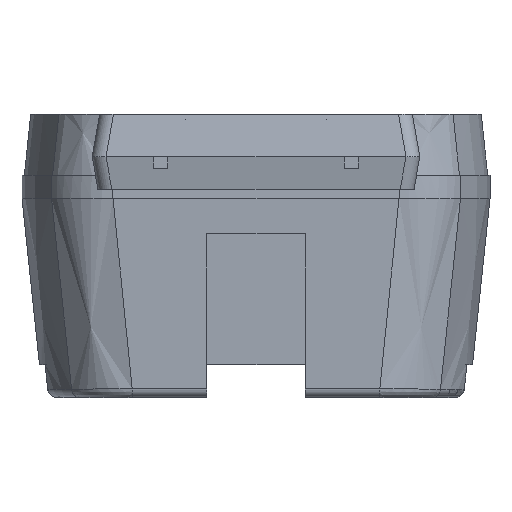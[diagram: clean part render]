
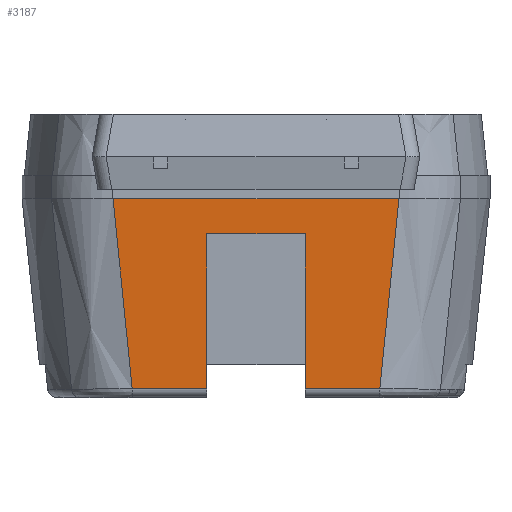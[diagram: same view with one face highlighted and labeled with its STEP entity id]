
A CAD part, front view. The second image highlights one B-rep face of the part: STEP entity #3187.
In plain terms, the highlighted planar face has unit normal (0, -0.999, -0.035).
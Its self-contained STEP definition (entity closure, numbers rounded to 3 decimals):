
#130 = VECTOR ( 'NONE', #842, 1000. ) ;
#179 = ORIENTED_EDGE ( 'NONE', *, *, #1987, .T. ) ;
#298 = EDGE_CURVE ( 'NONE', #2573, #4794, #7145, .T. ) ;
#450 = CARTESIAN_POINT ( 'NONE',  ( 12.279, 25.539, 22.87 ) ) ;
#796 = LINE ( 'NONE', #1024, #4997 ) ;
#829 = DIRECTION ( 'NONE',  ( 0., -0.999, -0.035 ) ) ;
#842 = DIRECTION ( 'NONE',  ( 1., 0., 0. ) ) ;
#884 = EDGE_CURVE ( 'NONE', #2573, #4107, #6139, .T. ) ;
#1024 = CARTESIAN_POINT ( 'NONE',  ( 16.013, 25.411, 26.553 ) ) ;
#1050 = ORIENTED_EDGE ( 'NONE', *, *, #6399, .F. ) ;
#1059 = ORIENTED_EDGE ( 'NONE', *, *, #3048, .T. ) ;
#1079 = LINE ( 'NONE', #7458, #1963 ) ;
#1089 = CARTESIAN_POINT ( 'NONE',  ( 12.298, 25.546, 22.683 ) ) ;
#1186 = CARTESIAN_POINT ( 'NONE',  ( 13.913, 25.411, 26.553 ) ) ;
#1539 = CARTESIAN_POINT ( 'NONE',  ( 17.801, 25.486, 24.401 ) ) ;
#1665 = CARTESIAN_POINT ( 'NONE',  ( 12.261, 25.533, 23.057 ) ) ;
#1867 = VERTEX_POINT ( 'NONE', #5412 ) ;
#1963 = VECTOR ( 'NONE', #6758, 1000. ) ;
#1987 = EDGE_CURVE ( 'NONE', #4107, #4542, #7743, .T. ) ;
#2170 = CARTESIAN_POINT ( 'NONE',  ( 17.938, 25.438, 25.753 ) ) ;
#2198 = EDGE_CURVE ( 'NONE', #2305, #6308, #796, .T. ) ;
#2277 = ORIENTED_EDGE ( 'NONE', *, *, #884, .T. ) ;
#2305 = VERTEX_POINT ( 'NONE', #5625 ) ;
#2495 = DIRECTION ( 'NONE',  ( -1., 0., 0. ) ) ;
#2573 = VERTEX_POINT ( 'NONE', #5283 ) ;
#2607 = ORIENTED_EDGE ( 'NONE', *, *, #298, .F. ) ;
#2684 = PLANE ( 'NONE',  #5648 ) ;
#2711 = CARTESIAN_POINT ( 'NONE',  ( 18.805, 25.411, 26.553 ) ) ;
#2874 = VECTOR ( 'NONE', #2495, 1000. ) ;
#2884 = CARTESIAN_POINT ( 'NONE',  ( 18.019, 25.411, 26.553 ) ) ;
#3048 = EDGE_CURVE ( 'NONE', #2305, #1867, #1079, .T. ) ;
#3187 = ADVANCED_FACE ( 'NONE', ( #6916 ), #2684, .T. ) ;
#3354 = LINE ( 'NONE', #4345, #2874 ) ;
#3355 = EDGE_CURVE ( 'NONE', #1867, #4794, #6334, .T. ) ;
#3643 = EDGE_CURVE ( 'NONE', #5541, #4542, #7503, .T. ) ;
#3817 = ORIENTED_EDGE ( 'NONE', *, *, #2198, .F. ) ;
#3990 = CARTESIAN_POINT ( 'NONE',  ( 13.913, 25.552, 22.496 ) ) ;
#4072 = CARTESIAN_POINT ( 'NONE',  ( 17.705, 25.519, 23.448 ) ) ;
#4102 = CARTESIAN_POINT ( 'NONE',  ( 17.608, 25.552, 22.496 ) ) ;
#4107 = VERTEX_POINT ( 'NONE', #7555 ) ;
#4308 = DIRECTION ( 'NONE',  ( 0., 0.035, -0.999 ) ) ;
#4345 = CARTESIAN_POINT ( 'NONE',  ( 13.913, 25.437, 25.801 ) ) ;
#4542 = VERTEX_POINT ( 'NONE', #5100 ) ;
#4794 = VERTEX_POINT ( 'NONE', #2884 ) ;
#4924 = CARTESIAN_POINT ( 'NONE',  ( 13.913, 25.437, 25.801 ) ) ;
#4997 = VECTOR ( 'NONE', #7261, 1000. ) ;
#5100 = CARTESIAN_POINT ( 'NONE',  ( 13.913, 25.552, 22.496 ) ) ;
#5283 = CARTESIAN_POINT ( 'NONE',  ( 11.907, 25.411, 26.553 ) ) ;
#5318 = ORIENTED_EDGE ( 'NONE', *, *, #3643, .F. ) ;
#5404 = CARTESIAN_POINT ( 'NONE',  ( 12.142, 25.492, 24.222 ) ) ;
#5412 = CARTESIAN_POINT ( 'NONE',  ( 17.608, 25.552, 22.496 ) ) ;
#5466 = CARTESIAN_POINT ( 'NONE',  ( 12.317, 25.552, 22.496 ) ) ;
#5541 = VERTEX_POINT ( 'NONE', #4924 ) ;
#5625 = CARTESIAN_POINT ( 'NONE',  ( 16.013, 25.552, 22.496 ) ) ;
#5648 = AXIS2_PLACEMENT_3D ( 'NONE', #2711, #829, #7724 ) ;
#5872 = VECTOR ( 'NONE', #4308, 1000. ) ;
#5918 = CARTESIAN_POINT ( 'NONE',  ( 17.897, 25.452, 25.353 ) ) ;
#6139 = B_SPLINE_CURVE_WITH_KNOTS ( 'NONE', 3,
 ( #7887, #7952, #5404, #1665, #450, #1089, #5466 ),
 .UNSPECIFIED., .F., .F.,
 ( 4, 3, 4 ),
 ( 0., 0.004, 0.004 ),
 .UNSPECIFIED. ) ;
#6246 = EDGE_LOOP ( 'NONE', ( #1050, #3817, #1059, #6902, #2607, #2277, #179, #5318 ) ) ;
#6308 = VERTEX_POINT ( 'NONE', #6660 ) ;
#6334 = B_SPLINE_CURVE_WITH_KNOTS ( 'NONE', 3,
 ( #4102, #4072, #1539, #5918, #2170, #6524, #7148 ),
 .UNSPECIFIED., .F., .F.,
 ( 4, 3, 4 ),
 ( 0., 0.003, 0.004 ),
 .UNSPECIFIED. ) ;
#6399 = EDGE_CURVE ( 'NONE', #6308, #5541, #3354, .T. ) ;
#6427 = CARTESIAN_POINT ( 'NONE',  ( 18.805, 25.411, 26.553 ) ) ;
#6524 = CARTESIAN_POINT ( 'NONE',  ( 17.978, 25.425, 26.153 ) ) ;
#6660 = CARTESIAN_POINT ( 'NONE',  ( 16.013, 25.437, 25.801 ) ) ;
#6758 = DIRECTION ( 'NONE',  ( 1., 0., 0. ) ) ;
#6902 = ORIENTED_EDGE ( 'NONE', *, *, #3355, .T. ) ;
#6916 = FACE_OUTER_BOUND ( 'NONE', #6246, .T. ) ;
#6940 = DIRECTION ( 'NONE',  ( 1., 0., 0. ) ) ;
#7145 = LINE ( 'NONE', #6427, #7759 ) ;
#7148 = CARTESIAN_POINT ( 'NONE',  ( 18.019, 25.411, 26.553 ) ) ;
#7261 = DIRECTION ( 'NONE',  ( 0., -0.035, 0.999 ) ) ;
#7458 = CARTESIAN_POINT ( 'NONE',  ( 17.589, 25.552, 22.496 ) ) ;
#7503 = LINE ( 'NONE', #1186, #5872 ) ;
#7555 = CARTESIAN_POINT ( 'NONE',  ( 12.317, 25.552, 22.496 ) ) ;
#7724 = DIRECTION ( 'NONE',  ( 0., -0.035, 0.999 ) ) ;
#7743 = LINE ( 'NONE', #3990, #130 ) ;
#7759 = VECTOR ( 'NONE', #6940, 1000. ) ;
#7887 = CARTESIAN_POINT ( 'NONE',  ( 11.907, 25.411, 26.553 ) ) ;
#7952 = CARTESIAN_POINT ( 'NONE',  ( 12.025, 25.451, 25.388 ) ) ;
